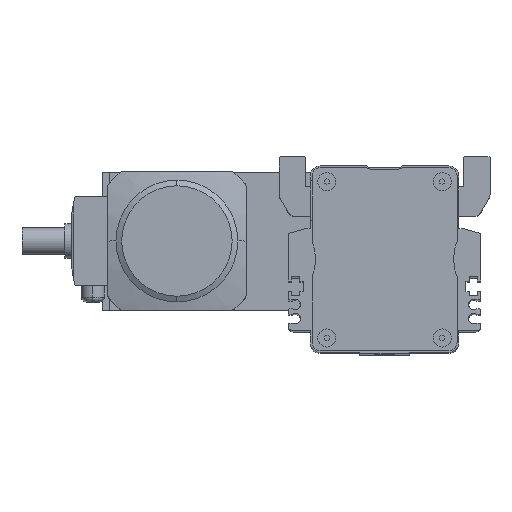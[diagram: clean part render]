
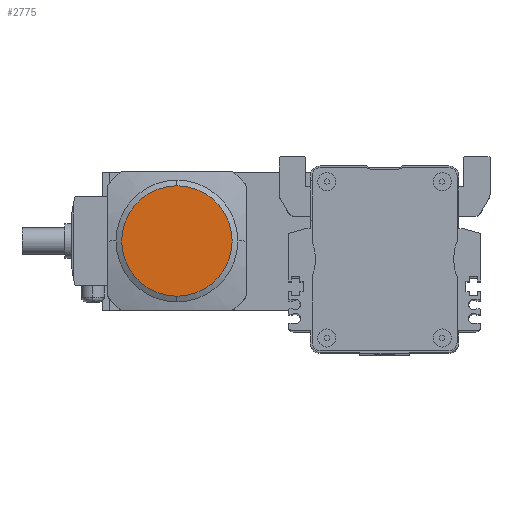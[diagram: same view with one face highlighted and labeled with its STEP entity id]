
A CAD part, top view. The second image highlights one B-rep face of the part: STEP entity #2775.
In plain terms, the highlighted planar face has unit normal (0, 0, 1).
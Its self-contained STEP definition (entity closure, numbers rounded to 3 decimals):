
#2604 = VERTEX_POINT ( 'NONE', #5862 ) ;
#2634 = EDGE_CURVE ( 'NONE', #2647, #2604, #5989, .T. ) ;
#2647 = VERTEX_POINT ( 'NONE', #6025 ) ;
#2734 = EDGE_CURVE ( 'NONE', #2604, #2647, #6200, .T. ) ;
#2743 = EDGE_LOOP ( 'NONE', ( #2778, #2797 ) ) ;
#2775 = ADVANCED_FACE ( 'NONE', ( #6277 ), #6271, .T. ) ;
#2778 = ORIENTED_EDGE ( 'NONE', *, *, #2634, .F. ) ;
#2797 = ORIENTED_EDGE ( 'NONE', *, *, #2734, .F. ) ;
#5862 = CARTESIAN_POINT ( 'NONE',  ( 124.19, -20.781, 68. ) ) ;
#5984 = DIRECTION ( 'NONE',  ( 0., 1., 0. ) ) ;
#5986 = DIRECTION ( 'NONE',  ( 0., 0., -1. ) ) ;
#5987 = CARTESIAN_POINT ( 'NONE',  ( 124.19, -4.031, 68. ) ) ;
#5988 = AXIS2_PLACEMENT_3D ( 'NONE', #5987, #5986, #5984 ) ;
#5989 = CIRCLE ( 'NONE', #5988, 16.75 ) ;
#6025 = CARTESIAN_POINT ( 'NONE',  ( 124.19, 12.719, 68. ) ) ;
#6183 = DIRECTION ( 'NONE',  ( 0., 1., 0. ) ) ;
#6184 = DIRECTION ( 'NONE',  ( 0., 0., -1. ) ) ;
#6186 = CARTESIAN_POINT ( 'NONE',  ( 124.19, -4.031, 68. ) ) ;
#6188 = AXIS2_PLACEMENT_3D ( 'NONE', #6186, #6184, #6183 ) ;
#6200 = CIRCLE ( 'NONE', #6188, 16.75 ) ;
#6263 = DIRECTION ( 'NONE',  ( 0., -1., 0. ) ) ;
#6265 = DIRECTION ( 'NONE',  ( 0., 0., 1. ) ) ;
#6266 = CARTESIAN_POINT ( 'NONE',  ( 132.565, -4.031, 68. ) ) ;
#6271 = PLANE ( 'NONE',  #6276 ) ;
#6276 = AXIS2_PLACEMENT_3D ( 'NONE', #6266, #6265, #6263 ) ;
#6277 = FACE_OUTER_BOUND ( 'NONE', #2743, .T. ) ;
